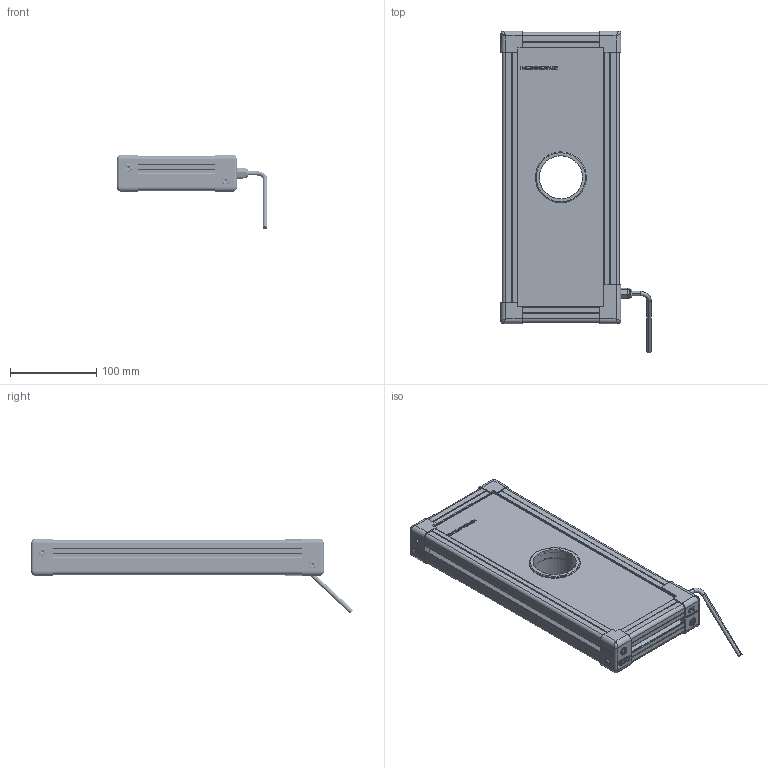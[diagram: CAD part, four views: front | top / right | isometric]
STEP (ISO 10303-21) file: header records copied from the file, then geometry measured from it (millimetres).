
FILE_DESCRIPTION (( 'STEP AP214' ), '1' );
FILE_NAME ('EFFI-FD-100-300-ZZZ-1M12.STEP', '2021-06-18T14:15:47', ( '' ), ( '' ), 'SwSTEP 2.0', 'SolidWorks 2021', '' );
FILE_SCHEMA (( 'AUTOMOTIVE_DESIGN' ));
Length unit declared in the file: millimetre
Products named in the file (13): profile X_PERCE; petite joue + vis; profile Y_PERCE; 000590; 000629; grande joue; 001040; Pièce13^EFFI-BL-XXX-YYY-ZZZ (1connecteur) Ø50; Assemblage Ø50; 001039; cordon_Avec cable; EFFI-FD-100-300-ZZZ-1M12; petite joue
Assembly tree (21 placements, depth 3):
  EFFI-FD-100-300-ZZZ-1M12
    profile X_PERCE  x2
    profile Y_PERCE  x2
    Pièce13^EFFI-BL-XXX-YYY-ZZZ (1connecteur) Ø50
    petite joue + vis  x3
      petite joue
      000629
    000629  x2
    grande joue
    Assemblage Ø50
      001039
      001040
      000590  x3
    cordon_Avec cable
Bounding box: 174.15 x 372.82 x 86.52 mm (x, y, z)
Volume: 1559813.1 mm3; surface area: 276975.3 mm2
Topology: 22 solids, 28 shells, 3840 faces, 10209 edges, 6700 vertices
Faces by surface type: plane 2371, cylinder 724, bspline 552, cone 150, torus 35, sphere 8
Entity records: 72881 total; most frequent: CARTESIAN_POINT 28442, ORIENTED_EDGE 9308, DIRECTION 7751, EDGE_CURVE 4658, VECTOR 3485, LINE 3485, VERTEX_POINT 3071, AXIS2_PLACEMENT_3D 2133
